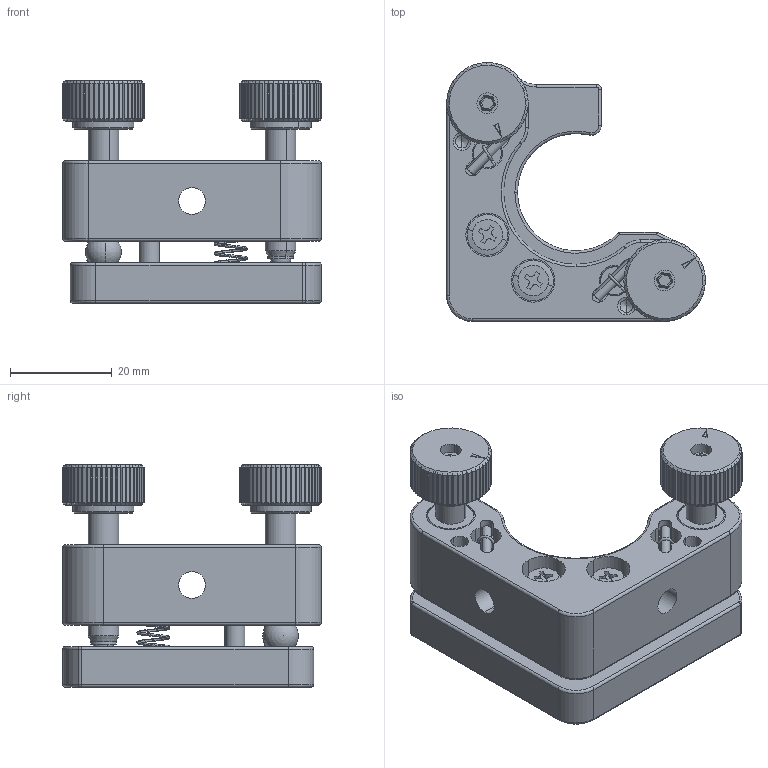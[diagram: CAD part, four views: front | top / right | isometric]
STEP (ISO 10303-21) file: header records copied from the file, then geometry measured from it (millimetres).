
FILE_DESCRIPTION (( 'STEP AP203' ), '1' );
FILE_NAME ('M-TNC-1L-HOX.STEP', '2020-08-04T01:39:37', ( '匠星' ), ( '' ), 'SwSTEP 2.0', 'SolidWorks 2019', '' );
FILE_SCHEMA (( 'CONFIG_CONTROL_DESIGN' ));
Length unit declared in the file: millimetre
Products named in the file (1): M-TNC-1L-HOX
Bounding box: 50.8 x 50.8 x 43.74 mm (x, y, z)
Surface area: 16708.8 mm2 (no closed solid volume)
Topology: 0 solids, 20 shells, 970 faces, 2462 edges, 1554 vertices
Faces by surface type: cylinder 412, plane 387, torus 81, cone 60, sphere 24, bspline 6
Entity records: 34174 total; most frequent: CARTESIAN_POINT 11250, ORIENTED_EDGE 4838, DIRECTION 4771, EDGE_CURVE 2422, AXIS2_PLACEMENT_3D 1901, VERTEX_POINT 1546, EDGE_LOOP 1052, ADVANCED_FACE 970
